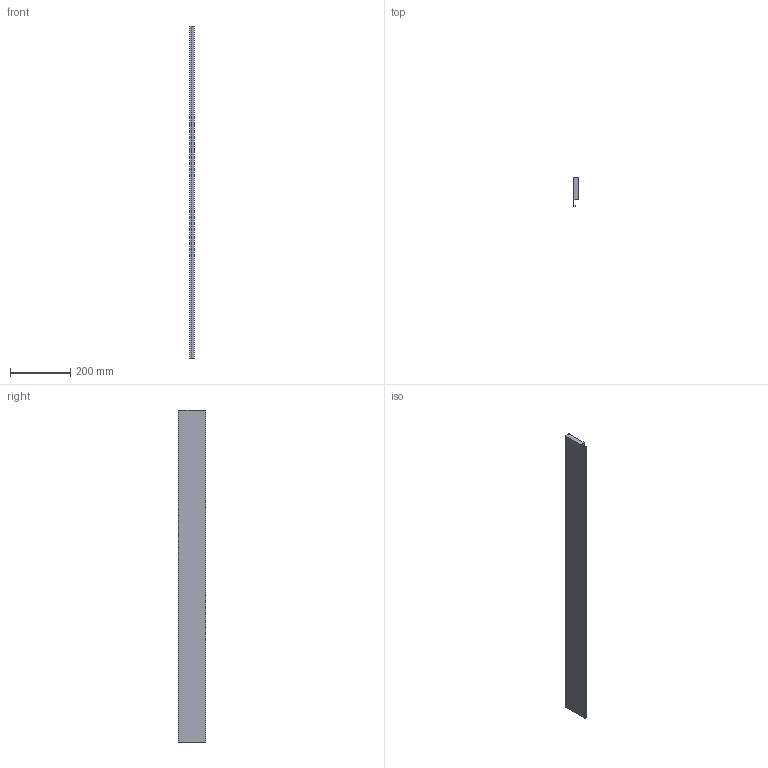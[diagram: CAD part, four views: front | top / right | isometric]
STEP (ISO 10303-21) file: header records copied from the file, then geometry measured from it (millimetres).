
FILE_DESCRIPTION (( 'STEP AP203' ), '1' );
FILE_NAME ('M01021.STEP', '2020-05-03T01:12:44', ( 'Windows 蚚誧' ), ( '' ), 'SwSTEP 2.0', 'SolidWorks 2012', '' );
FILE_SCHEMA (( 'CONFIG_CONTROL_DESIGN' ));
Length unit declared in the file: millimetre
Products named in the file (1): M01021
Bounding box: 15.8 x 91.1 x 1100 mm (x, y, z)
Volume: 1261941.8 mm3; surface area: 244197.1 mm2
Topology: 1 solids, 1 shells, 16 faces, 42 edges, 28 vertices
Faces by surface type: plane 10, cylinder 6
Entity records: 575 total; most frequent: DIRECTION 88, CARTESIAN_POINT 87, ORIENTED_EDGE 84, EDGE_CURVE 42, VECTOR 30, LINE 30, AXIS2_PLACEMENT_3D 29, VERTEX_POINT 28
